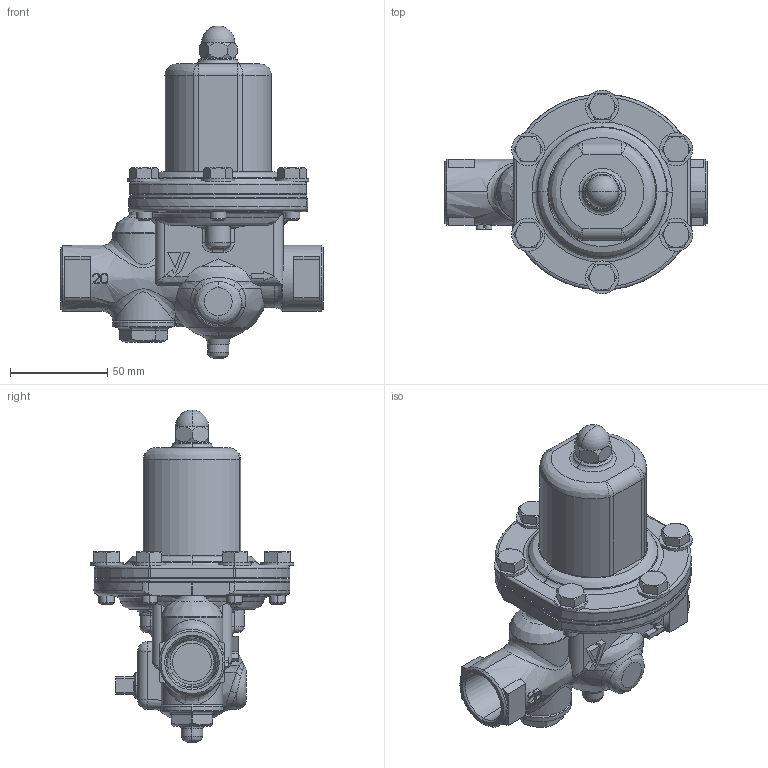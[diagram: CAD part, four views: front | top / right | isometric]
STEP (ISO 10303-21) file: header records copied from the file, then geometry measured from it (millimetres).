
FILE_DESCRIPTION( (''), '2;1');
FILE_NAME ('PC2082.13236.GD-28S-NE 20A_21279.stp','2026-03-24T17:53:08',(''),(''),'spGate 20.6.3 (****-****-****-****)','','');
FILE_SCHEMA (('AUTOMOTIVE_DESIGN'));
Length unit declared in the file: millimetre
Products named in the file (9): Assembly; GD-28S-NE弁箱 20A 20K; ダイヤフラム20,25Ａ; 20-25A保護筒; ストレーナキャップ　3D　20A-2; CP_''_JIS B 1183 六角袋ナット 3形 M''_705; CP_''_JIS B 1180 呼び径六角ボルト''_17166; CP_平座金(ミ''_JIS B 1256 みがき丸 8_740; プラグ3D
Assembly tree (18 placements, depth 2):
  Assembly
    GD-28S-NE弁箱 20A 20K
    ダイヤフラム20,25Ａ
    20-25A保護筒
    ストレーナキャップ　3D　20A-2
    CP_''_JIS B 1183 六角袋ナット 3形 M''_705
    CP_''_JIS B 1180 呼び径六角ボルト''_17166  x6
    CP_平座金(ミ''_JIS B 1256 みがき丸 8_740  x6
    プラグ3D
Bounding box: 135 x 105 x 171.03 mm (x, y, z)
Volume: 438499.8 mm3; surface area: 106217.6 mm2
Topology: 18 solids, 18 shells, 634 faces, 1512 edges, 935 vertices
Faces by surface type: bspline 223, plane 207, cylinder 184, sphere 20
Entity records: 30559 total; most frequent: CARTESIAN_POINT 10830, ORIENTED_EDGE 2364, DIRECTION 1776, COLOUR_RGB 1674, PRESENTATION_STYLE_ASSIGNMENT 1674, STYLED_ITEM 1674, EDGE_CURVE 1182, DRAUGHTING_PRE_DEFINED_CURVE_FONT 1182
